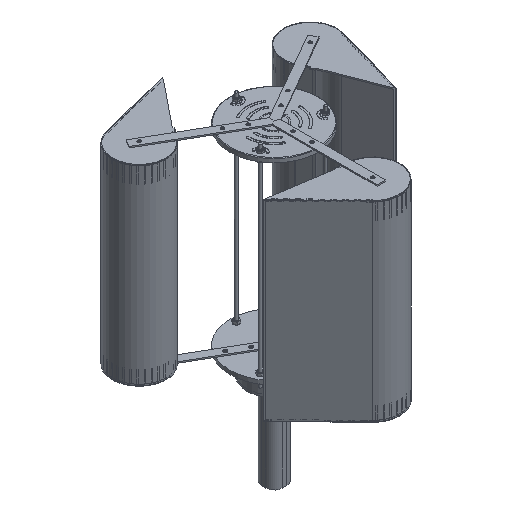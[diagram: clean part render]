
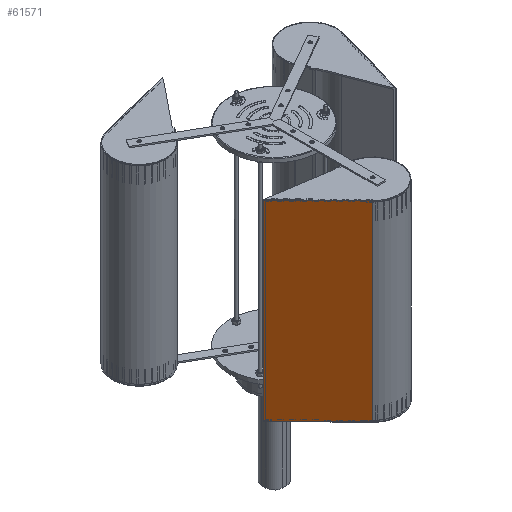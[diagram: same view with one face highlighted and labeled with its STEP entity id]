
A CAD part, isometric view. The second image highlights one B-rep face of the part: STEP entity #61571.
In plain terms, the highlighted planar face has unit normal (-0.718, -0.696, 0) as drawn and (0, 0, -1) by its records, which use the part's own axes.
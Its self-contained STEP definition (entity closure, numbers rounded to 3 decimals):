
#60976 = VERTEX_POINT('',#60977);
#60977 = CARTESIAN_POINT('',(-228.,-45.,0.));
#60992 = CYLINDRICAL_SURFACE('',#60993,64.25);
#60993 = AXIS2_PLACEMENT_3D('',#60994,#60995,#60996);
#60994 = CARTESIAN_POINT('',(-228.,-45.,64.25));
#60995 = DIRECTION('',(1.,0.,0.));
#60996 = DIRECTION('',(0.,0.,1.));
#61017 = PLANE('',#61018);
#61018 = AXIS2_PLACEMENT_3D('',#61019,#61020,#61021);
#61019 = CARTESIAN_POINT('',(-228.,-228.,0.));
#61020 = DIRECTION('',(-1.,0.,0.));
#61021 = DIRECTION('',(0.,1.,0.));
#61114 = VERTEX_POINT('',#61115);
#61115 = CARTESIAN_POINT('',(228.,-45.,0.));
#61128 = PLANE('',#61129);
#61129 = AXIS2_PLACEMENT_3D('',#61130,#61131,#61132);
#61130 = CARTESIAN_POINT('',(228.,228.,0.));
#61131 = DIRECTION('',(1.,0.,0.));
#61132 = DIRECTION('',(0.,-1.,0.));
#61246 = PLANE('',#61247);
#61247 = AXIS2_PLACEMENT_3D('',#61248,#61249,#61250);
#61248 = CARTESIAN_POINT('',(228.,-228.,0.));
#61249 = DIRECTION('',(0.,-1.,0.));
#61250 = DIRECTION('',(-1.,0.,0.));
#61338 = EDGE_CURVE('',#60976,#61114,#61339,.T.);
#61339 = SURFACE_CURVE('',#61340,(#61344,#61351),.PCURVE_S1.);
#61340 = LINE('',#61341,#61342);
#61341 = CARTESIAN_POINT('',(-228.,-45.,0.));
#61342 = VECTOR('',#61343,1.);
#61343 = DIRECTION('',(1.,0.,0.));
#61344 = PCURVE('',#60992,#61345);
#61345 = DEFINITIONAL_REPRESENTATION('',(#61346),#61350);
#61346 = LINE('',#61347,#61348);
#61347 = CARTESIAN_POINT('',(3.142,0.));
#61348 = VECTOR('',#61349,1.);
#61349 = DIRECTION('',(0.,1.));
#61350 = ( GEOMETRIC_REPRESENTATION_CONTEXT(2) 
PARAMETRIC_REPRESENTATION_CONTEXT() REPRESENTATION_CONTEXT('2D SPACE',''
  ) );
#61351 = PCURVE('',#61352,#61357);
#61352 = PLANE('',#61353);
#61353 = AXIS2_PLACEMENT_3D('',#61354,#61355,#61356);
#61354 = CARTESIAN_POINT('',(0.,0.,0.));
#61355 = DIRECTION('',(-0.,-0.,-1.));
#61356 = DIRECTION('',(-1.,0.,0.));
#61357 = DEFINITIONAL_REPRESENTATION('',(#61358),#61362);
#61358 = LINE('',#61359,#61360);
#61359 = CARTESIAN_POINT('',(228.,-45.));
#61360 = VECTOR('',#61361,1.);
#61361 = DIRECTION('',(-1.,0.));
#61362 = ( GEOMETRIC_REPRESENTATION_CONTEXT(2) 
PARAMETRIC_REPRESENTATION_CONTEXT() REPRESENTATION_CONTEXT('2D SPACE',''
  ) );
#61367 = EDGE_CURVE('',#61368,#60976,#61370,.T.);
#61368 = VERTEX_POINT('',#61369);
#61369 = CARTESIAN_POINT('',(-228.,-228.,0.));
#61370 = SURFACE_CURVE('',#61371,(#61375,#61382),.PCURVE_S1.);
#61371 = LINE('',#61372,#61373);
#61372 = CARTESIAN_POINT('',(-228.,-228.,0.));
#61373 = VECTOR('',#61374,1.);
#61374 = DIRECTION('',(0.,1.,0.));
#61375 = PCURVE('',#61017,#61376);
#61376 = DEFINITIONAL_REPRESENTATION('',(#61377),#61381);
#61377 = LINE('',#61378,#61379);
#61378 = CARTESIAN_POINT('',(0.,0.));
#61379 = VECTOR('',#61380,1.);
#61380 = DIRECTION('',(1.,0.));
#61381 = ( GEOMETRIC_REPRESENTATION_CONTEXT(2) 
PARAMETRIC_REPRESENTATION_CONTEXT() REPRESENTATION_CONTEXT('2D SPACE',''
  ) );
#61382 = PCURVE('',#61352,#61383);
#61383 = DEFINITIONAL_REPRESENTATION('',(#61384),#61388);
#61384 = LINE('',#61385,#61386);
#61385 = CARTESIAN_POINT('',(228.,-228.));
#61386 = VECTOR('',#61387,1.);
#61387 = DIRECTION('',(0.,1.));
#61388 = ( GEOMETRIC_REPRESENTATION_CONTEXT(2) 
PARAMETRIC_REPRESENTATION_CONTEXT() REPRESENTATION_CONTEXT('2D SPACE',''
  ) );
#61492 = EDGE_CURVE('',#61114,#61493,#61495,.T.);
#61493 = VERTEX_POINT('',#61494);
#61494 = CARTESIAN_POINT('',(228.,-228.,0.));
#61495 = SURFACE_CURVE('',#61496,(#61500,#61507),.PCURVE_S1.);
#61496 = LINE('',#61497,#61498);
#61497 = CARTESIAN_POINT('',(228.,228.,0.));
#61498 = VECTOR('',#61499,1.);
#61499 = DIRECTION('',(0.,-1.,0.));
#61500 = PCURVE('',#61128,#61501);
#61501 = DEFINITIONAL_REPRESENTATION('',(#61502),#61506);
#61502 = LINE('',#61503,#61504);
#61503 = CARTESIAN_POINT('',(0.,0.));
#61504 = VECTOR('',#61505,1.);
#61505 = DIRECTION('',(1.,0.));
#61506 = ( GEOMETRIC_REPRESENTATION_CONTEXT(2) 
PARAMETRIC_REPRESENTATION_CONTEXT() REPRESENTATION_CONTEXT('2D SPACE',''
  ) );
#61507 = PCURVE('',#61352,#61508);
#61508 = DEFINITIONAL_REPRESENTATION('',(#61509),#61513);
#61509 = LINE('',#61510,#61511);
#61510 = CARTESIAN_POINT('',(-228.,228.));
#61511 = VECTOR('',#61512,1.);
#61512 = DIRECTION('',(0.,-1.));
#61513 = ( GEOMETRIC_REPRESENTATION_CONTEXT(2) 
PARAMETRIC_REPRESENTATION_CONTEXT() REPRESENTATION_CONTEXT('2D SPACE',''
  ) );
#61544 = EDGE_CURVE('',#61493,#61368,#61545,.T.);
#61545 = SURFACE_CURVE('',#61546,(#61550,#61557),.PCURVE_S1.);
#61546 = LINE('',#61547,#61548);
#61547 = CARTESIAN_POINT('',(228.,-228.,0.));
#61548 = VECTOR('',#61549,1.);
#61549 = DIRECTION('',(-1.,0.,0.));
#61550 = PCURVE('',#61246,#61551);
#61551 = DEFINITIONAL_REPRESENTATION('',(#61552),#61556);
#61552 = LINE('',#61553,#61554);
#61553 = CARTESIAN_POINT('',(0.,-0.));
#61554 = VECTOR('',#61555,1.);
#61555 = DIRECTION('',(1.,0.));
#61556 = ( GEOMETRIC_REPRESENTATION_CONTEXT(2) 
PARAMETRIC_REPRESENTATION_CONTEXT() REPRESENTATION_CONTEXT('2D SPACE',''
  ) );
#61557 = PCURVE('',#61352,#61558);
#61558 = DEFINITIONAL_REPRESENTATION('',(#61559),#61563);
#61559 = LINE('',#61560,#61561);
#61560 = CARTESIAN_POINT('',(-228.,-228.));
#61561 = VECTOR('',#61562,1.);
#61562 = DIRECTION('',(1.,0.));
#61563 = ( GEOMETRIC_REPRESENTATION_CONTEXT(2) 
PARAMETRIC_REPRESENTATION_CONTEXT() REPRESENTATION_CONTEXT('2D SPACE',''
  ) );
#61571 = ADVANCED_FACE('',(#61572),#61352,.T.);
#61572 = FACE_BOUND('',#61573,.T.);
#61573 = EDGE_LOOP('',(#61574,#61575,#61576,#61577));
#61574 = ORIENTED_EDGE('',*,*,#61367,.T.);
#61575 = ORIENTED_EDGE('',*,*,#61338,.T.);
#61576 = ORIENTED_EDGE('',*,*,#61492,.T.);
#61577 = ORIENTED_EDGE('',*,*,#61544,.T.);
